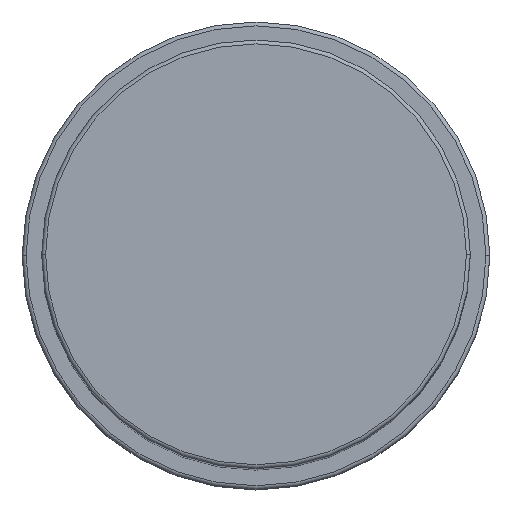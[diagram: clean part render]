
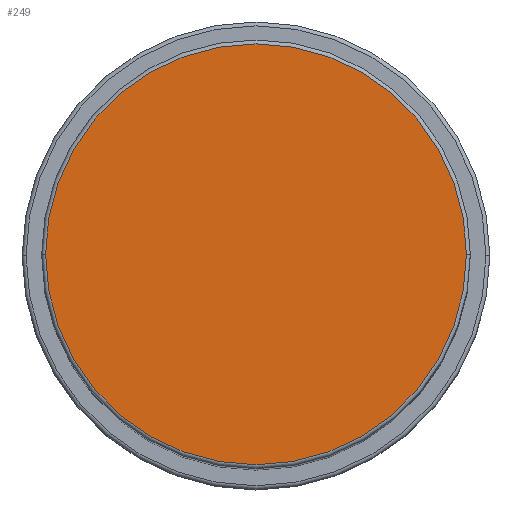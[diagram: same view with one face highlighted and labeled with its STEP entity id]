
A CAD part, top view. The second image highlights one B-rep face of the part: STEP entity #249.
In plain terms, the highlighted planar face has unit normal (0, 0, 1).
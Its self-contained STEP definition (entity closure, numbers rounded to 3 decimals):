
#1 = CIRCLE ( 'NONE', #454, 27. ) ;
#115 = DIRECTION ( 'NONE',  ( 1., 0., 0. ) ) ;
#249 = ADVANCED_FACE ( 'NONE', ( #687 ), #574, .T. ) ;
#451 = CARTESIAN_POINT ( 'NONE',  ( 0., 0., 123. ) ) ;
#454 = AXIS2_PLACEMENT_3D ( 'NONE', #451, #1005, #582 ) ;
#574 = PLANE ( 'NONE',  #1468 ) ;
#582 = DIRECTION ( 'NONE',  ( 1., 0., 0. ) ) ;
#588 = DIRECTION ( 'NONE',  ( 0., 0., 1. ) ) ;
#593 = DIRECTION ( 'NONE',  ( 1., 0., 0. ) ) ;
#610 = EDGE_CURVE ( 'NONE', #1552, #836, #1405, .T. ) ;
#687 = FACE_OUTER_BOUND ( 'NONE', #741, .T. ) ;
#741 = EDGE_LOOP ( 'NONE', ( #1222, #862 ) ) ;
#760 = AXIS2_PLACEMENT_3D ( 'NONE', #1780, #1350, #115 ) ;
#836 = VERTEX_POINT ( 'NONE', #1287 ) ;
#862 = ORIENTED_EDGE ( 'NONE', *, *, #1393, .T. ) ;
#863 = CARTESIAN_POINT ( 'NONE',  ( 0., 0., 123. ) ) ;
#1005 = DIRECTION ( 'NONE',  ( 0., 0., 1. ) ) ;
#1222 = ORIENTED_EDGE ( 'NONE', *, *, #610, .T. ) ;
#1287 = CARTESIAN_POINT ( 'NONE',  ( -27., 0., 123. ) ) ;
#1313 = CARTESIAN_POINT ( 'NONE',  ( 27., 0., 123. ) ) ;
#1350 = DIRECTION ( 'NONE',  ( 0., 0., 1. ) ) ;
#1393 = EDGE_CURVE ( 'NONE', #836, #1552, #1, .T. ) ;
#1405 = CIRCLE ( 'NONE', #760, 27. ) ;
#1468 = AXIS2_PLACEMENT_3D ( 'NONE', #863, #588, #593 ) ;
#1552 = VERTEX_POINT ( 'NONE', #1313 ) ;
#1780 = CARTESIAN_POINT ( 'NONE',  ( 0., 0., 123. ) ) ;
